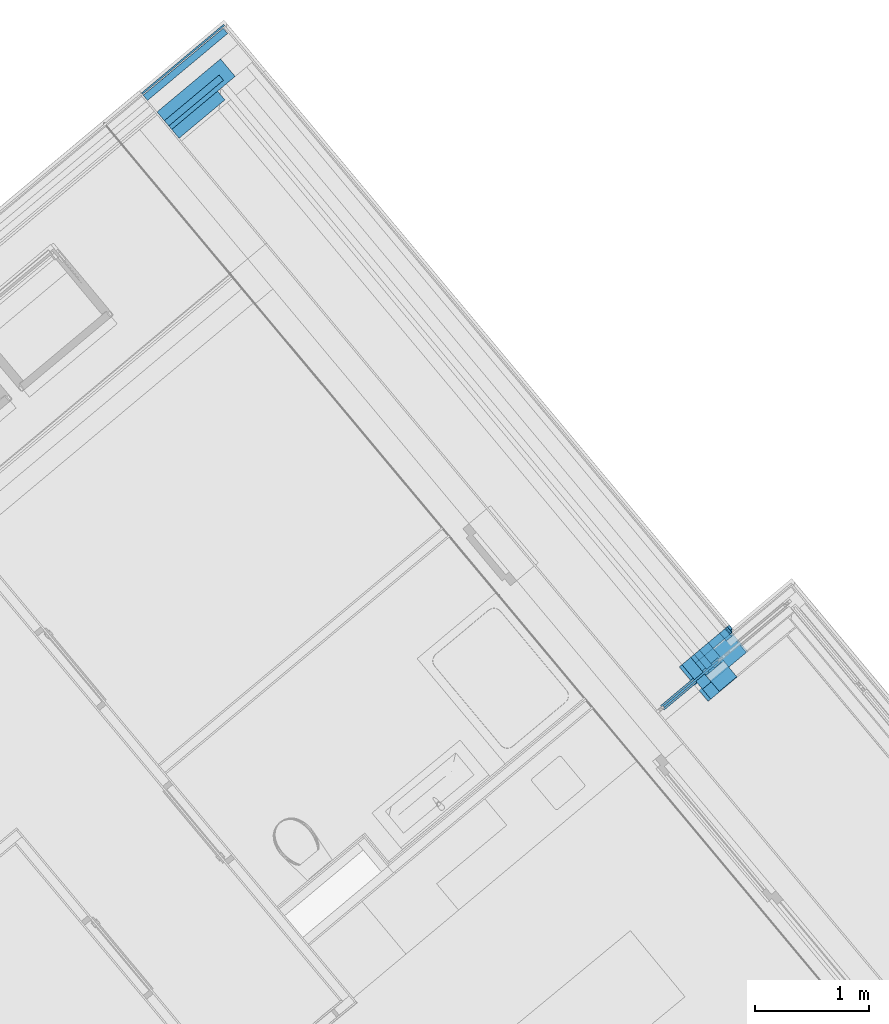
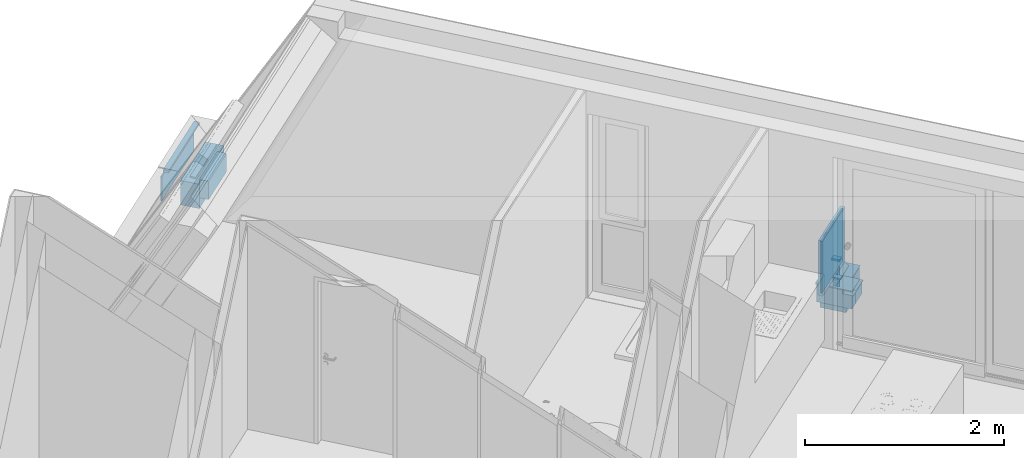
# One storey, part 48 of 58: 15 building element parts, 3 elements without a shape of their own.
"""IFC4 building model written with IfcOpenShell, lengths in metres."""

from ifc_helpers import new_model, entity, si_unit, converted_unit, derived_unit, direction, frame, origin_with_axes, place, context, subcontext, project, spatial, polygons, material, type_object, element, aggregate, save


model = new_model("IFC4")

# Units and contexts
model_context = context("Model", 3, precision=1e-05, world=origin_with_axes(), true_north=direction((0.0, 1.0)))
body_context = subcontext(model_context, "Body", "Model", "MODEL_VIEW")
ifc_project = project(units=[si_unit("LENGTHUNIT", "METRE"), si_unit("AREAUNIT", "SQUARE_METRE"), si_unit("VOLUMEUNIT", "CUBIC_METRE"), converted_unit("PLANEANGLEUNIT", "DEGREE", entity("IfcPlaneAngleMeasure", 0.0174532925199), si_unit("PLANEANGLEUNIT", "RADIAN"), dimensions=[0, 0, 0, 0, 0, 0, 0]), converted_unit("TIMEUNIT", "Year", entity("IfcTimeMeasure", 31556926.0), si_unit("TIMEUNIT", "SECOND"), dimensions=[0, 0, 1, 0, 0, 0, 0]), si_unit("MASSUNIT", "GRAM", prefix="KILO"), si_unit("THERMODYNAMICTEMPERATUREUNIT", "DEGREE_CELSIUS"), si_unit("LUMINOUSINTENSITYUNIT", "LUMEN"), si_unit("ENERGYUNIT", "JOULE", prefix="MEGA"), derived_unit("THERMALCONDUCTANCEUNIT", [(si_unit("POWERUNIT", "WATT"), 1), (si_unit("LENGTHUNIT", "METRE"), -1), (si_unit("THERMODYNAMICTEMPERATUREUNIT", "KELVIN"), -1)]), derived_unit("SPECIFICHEATCAPACITYUNIT", [(si_unit("ENERGYUNIT", "JOULE"), 1), (si_unit("MASSUNIT", "GRAM", prefix="KILO"), -1), (si_unit("THERMODYNAMICTEMPERATUREUNIT", "KELVIN"), -1)]), derived_unit("MASSDENSITYUNIT", [(si_unit("MASSUNIT", "GRAM", prefix="KILO"), 1), (si_unit("VOLUMEUNIT", "CUBIC_METRE"), -1)])], contexts=[model_context])

# Site, building, storey
site_placement = place(None, frame((-0.00153261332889, -0.00661245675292, 0.0), z_axis=(0.0, 0.0, 1.0), x_axis=(1.0, 0.0, 0.0)))
site = spatial("IfcSite", under=ifc_project, at=site_placement, Name="Site", CompositionType="ELEMENT")
building_placement = place(site_placement, origin_with_axes())
building = spatial("IfcBuilding", under=site, at=building_placement, Name="Building", CompositionType="ELEMENT")
storey_placement = place(building_placement, frame((0.0, 0.0, 5.7), z_axis=(0.0, 0.0, 1.0), x_axis=(1.0, 0.0, 0.0)))
storey = spatial("IfcBuildingStorey", under=building, at=storey_placement, Name="DG1", CompositionType="ELEMENT", Elevation=5.7)

# Wall, building element parts
wall_type = type_object("IfcWallType", Name="Bauteil - Attika Terrasse 1.DG 574 x 410", PredefinedType="NOTDEFINED")
wall_1_placement = place(storey_placement, frame((9.8973799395, 25.5957671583, -0.2), z_axis=(0.0, 0.0, 1.0), x_axis=(0.641209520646, -0.767365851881, 0.0)))
wall_1 = element("IfcWall", 1, at=wall_1_placement, inside=storey, type_object=wall_type, Name="Wand-003", PredefinedType="NOTDEFINED")
ifc_material_1 = material(Name="Zementputz")
building_element_part_1_placement = place(wall_1_placement, origin_with_axes())
building_element_part_1 = element("IfcBuildingElementPart", 2, at=building_element_part_1_placement, material=ifc_material_1, Name="Zementputz", PredefinedType="NOTDEFINED", context=body_context, shape_type="Tessellation", body=[
    polygons([(0.0650006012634, 0.199999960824, 0.500000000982), (0.0650006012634, 0.214999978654, 0.500000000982), (0.0, 0.214999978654, 0.499999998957), (0.0, 0.199999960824, 0.499999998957), (0.0650006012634, 0.214999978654, 0.498915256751), (0.0650006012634, 0.199999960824, 0.498915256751), (0.0650006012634, 0.214999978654, 0.498822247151), (0.0650006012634, 0.214999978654, 0.496604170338), (0.0650006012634, 0.214999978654, 0.49100648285), (0.0650006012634, 0.214999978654, 0.488695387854), (0.0650006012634, 0.214999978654, 0.334999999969), (0.0650006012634, 0.214999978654, 0.2), (0.0, 0.214999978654, 0.2), (0.0, 0.199999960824, 0.2), (0.0650006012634, 0.199999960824, 0.2), (0.0650006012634, 0.199999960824, 0.334999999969), (0.0650006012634, 0.199999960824, 0.488695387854), (0.0650006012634, 0.199999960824, 0.49100648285), (0.0650006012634, 0.199999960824, 0.496604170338), (0.0650006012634, 0.199999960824, 0.498822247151)], [[[1, 2, 3, 4]], [[5, 2, 1, 6]], [[2, 5, 7, 8, 9, 10, 11, 12, 13, 3]], [[13, 14, 4, 3]], [[6, 1, 4, 14, 15, 16, 17, 18, 19, 20]], [[5, 6, 20, 7]], [[7, 20, 19, 8]], [[8, 19, 18, 9]], [[9, 18, 17, 10]], [[10, 17, 16, 11]], [[11, 16, 15, 12]], [[12, 15, 14, 13]]], closed=True),
])
ifc_material_2 = material(Name="Vollholz")
building_element_part_2_placement = place(wall_1_placement, origin_with_axes())
building_element_part_2 = element("IfcBuildingElementPart", 3, at=building_element_part_2_placement, material=ifc_material_2, Name="Vollholz", PredefinedType="NOTDEFINED", context=body_context, shape_type="Tessellation", body=[
    polygons([(0.0900156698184, 0.189984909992, 0.586106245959), (0.0900044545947, 0.189996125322, 0.584015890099), (0.0899932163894, 0.190007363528, 0.581921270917), (0.0899819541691, 0.190018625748, 0.57982217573), (0.0899613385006, 0.190039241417, 0.575979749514), (0.0899591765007, 0.190041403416, 0.575576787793), (0.0899500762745, 0.190050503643, 0.573880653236), (0.0899182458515, 0.190082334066, 0.567947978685), (0.0898756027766, 0.190124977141, 0.560000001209), (0.0, 0.190124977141, 0.560000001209), (0.0, 0.189984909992, 0.586106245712), (0.0900044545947, 0.130124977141, 0.584015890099), (0.0899932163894, 0.130124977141, 0.581921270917), (0.0899819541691, 0.130124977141, 0.57982217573), (0.0899613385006, 0.130124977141, 0.575979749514), (0.0899591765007, 0.130124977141, 0.575576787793), (0.0899500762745, 0.130124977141, 0.573880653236), (0.0899182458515, 0.130124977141, 0.567947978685), (0.0898756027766, 0.130124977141, 0.560000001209), (0.0, 0.130124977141, 0.560000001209), (0.0, 0.130124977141, 0.584015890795)], [[[1, 2, 3, 4, 5, 6, 7, 8, 9, 10, 11]], [[12, 2, 1]], [[2, 12, 13, 3]], [[3, 13, 14, 4]], [[4, 14, 15, 5]], [[5, 15, 16, 6]], [[6, 16, 17, 7]], [[7, 17, 18, 8]], [[8, 18, 19, 9]], [[9, 19, 20, 10]], [[21, 11, 10, 20]], [[12, 1, 11, 21]], [[13, 12, 21, 20, 19, 18, 17, 16, 15, 14]]], closed=True),
])
ifc_material_3 = material(Name="EPS 1")
building_element_part_3_placement = place(wall_1_placement, origin_with_axes())
building_element_part_3 = element("IfcBuildingElementPart", 4, at=building_element_part_3_placement, material=ifc_material_3, Name="EPS 1", PredefinedType="NOTDEFINED", context=body_context, shape_type="Tessellation", body=[
    polygons([(0.280000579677, 2.39904096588e-10, 0.499999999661), (0.280000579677, 0.19999996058, 0.499999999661), (0.0, 0.19999996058, 0.499999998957), (0.0, 2.39907649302e-10, 0.499999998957), (0.280000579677, 0.19999996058, 0.498915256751), (0.280000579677, 2.39904096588e-10, 0.498915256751), (0.280000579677, 0.19999996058, 0.498822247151), (0.280000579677, 0.19999996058, 0.496604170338), (0.280000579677, 0.19999996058, 0.49100648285), (0.280000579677, 0.19999996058, 0.488695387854), (0.280000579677, 0.19999996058, 0.334999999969), (0.2800005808, 0.19999996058, 0.199999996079), (0.0, 0.19999996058, 0.2), (0.0, 2.39907649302e-10, 0.2), (0.2800005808, 2.39904096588e-10, 0.199999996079), (0.280000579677, 2.39904096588e-10, 0.334999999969), (0.280000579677, 2.39904096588e-10, 0.488695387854), (0.280000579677, 2.39904096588e-10, 0.49100648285), (0.280000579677, 2.39904096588e-10, 0.496604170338), (0.280000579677, 2.39904096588e-10, 0.498822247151)], [[[1, 2, 3, 4]], [[5, 2, 1, 6]], [[2, 5, 7, 8, 9, 10, 11, 12, 13, 3]], [[14, 4, 3, 13]], [[6, 1, 4, 14, 15, 16, 17, 18, 19, 20]], [[5, 6, 20, 7]], [[7, 20, 19, 8]], [[8, 19, 18, 9]], [[9, 18, 17, 10]], [[10, 17, 16, 11]], [[11, 16, 15, 12]], [[13, 12, 15, 14]]], closed=True),
])
ifc_material_4 = material(Name="Brettschichtholz")
building_element_part_4_placement = place(wall_1_placement, origin_with_axes())
building_element_part_4 = element("IfcBuildingElementPart", 5, at=building_element_part_4_placement, material=ifc_material_4, Name="Brettschichtholz", PredefinedType="NOTDEFINED", context=body_context, shape_type="Tessellation", body=[
    polygons([(0.0650006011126, 0.190124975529, 0.560000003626), (0.0650006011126, 0.214999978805, 0.560000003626), (0.0, 0.214999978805, 0.559999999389), (0.0, 0.190124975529, 0.559999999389), (0.0650006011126, 0.214999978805, 0.519273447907), (0.0650006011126, 0.130124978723, 0.560000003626), (0.0650006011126, -0.100000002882, 0.560000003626), (0.0650006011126, -0.159999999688, 0.560000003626), (0.0650006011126, -0.200000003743, 0.560000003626), (0.0650006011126, -0.200000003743, 0.519273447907), (0.0650006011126, 0.214999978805, 0.519224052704), (0.0650006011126, 0.214999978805, 0.511410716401), (0.280000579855, 0.214999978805, 0.511410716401), (0.280000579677, 0.214999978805, 0.511361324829), (0.0650006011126, 0.214999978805, 0.511361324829), (0.0650006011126, 0.214999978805, 0.509099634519), (0.280000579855, 0.214999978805, 0.509099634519), (0.280000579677, 0.214999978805, 0.50905023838), (0.0650006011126, 0.214999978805, 0.50905023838), (0.0650006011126, 0.214999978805, 0.506731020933), (0.0650006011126, 0.214999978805, 0.499999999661), (0.0, 0.214999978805, 0.499999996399), (0.0, 0.130124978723, 0.559999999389), (0.0, -0.200000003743, 0.500000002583), (0.0, -0.200000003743, 0.559999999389), (0.0, -0.159999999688, 0.559999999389), (0.0, -0.100000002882, 0.559999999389), (0.0650006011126, -0.200000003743, 0.499999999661), (0.0650006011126, -0.200000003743, 0.506731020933), (0.0650006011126, -0.200000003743, 0.50905023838), (0.280000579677, -0.200000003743, 0.50905023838), (0.280000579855, -0.200000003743, 0.509099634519), (0.0650006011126, -0.200000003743, 0.509099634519), (0.0650006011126, -0.200000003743, 0.511361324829), (0.280000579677, -0.200000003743, 0.511361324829), (0.280000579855, -0.200000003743, 0.511410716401), (0.0650006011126, -0.200000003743, 0.511410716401), (0.0650006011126, -0.200000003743, 0.519224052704)], [[[1, 2, 3, 4]], [[5, 2, 1, 6, 7, 8, 9, 10]], [[2, 5, 11, 12, 13, 14, 15, 16, 17, 18, 19, 20, 21, 22, 3]], [[23, 4, 3, 22, 24, 25, 26, 27]], [[6, 1, 4, 23]], [[7, 6, 23, 27]], [[8, 7, 27, 26]], [[9, 8, 26, 25]], [[10, 9, 25, 24, 28, 29, 30, 31, 32, 33, 34, 35, 36, 37, 38]], [[5, 10, 38, 11]], [[11, 38, 37, 12]], [[36, 13, 12, 37]], [[13, 36, 35, 14]], [[14, 35, 34, 15]], [[16, 15, 34, 33]], [[32, 17, 16, 33]], [[17, 32, 31, 18]], [[18, 31, 30, 19]], [[20, 19, 30, 29]], [[20, 29, 28, 21]], [[21, 28, 24, 22]]], closed=True),
])
ifc_material_5 = material(Name="Stahlbeton")
building_element_part_5_placement = place(wall_1_placement, origin_with_axes())
building_element_part_5 = element("IfcBuildingElementPart", 6, at=building_element_part_5_placement, material=ifc_material_5, Name="Stahlbeton", PredefinedType="NOTDEFINED", context=body_context, shape_type="Tessellation", body=[
    polygons([(0.389248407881, -1.82836146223e-09, 0.499999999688), (0.390333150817, -1.82836501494e-09, 0.498915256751), (0.390426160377, -1.82836146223e-09, 0.498822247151), (0.392644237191, -1.82836146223e-09, 0.496604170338), (0.380000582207, -1.82835790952e-09, 0.49660417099), (0.380000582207, -1.82835790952e-09, 0.334999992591), (0.2800005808, -1.82836146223e-09, 0.334999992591), (0.2800005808, -1.82835790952e-09, 0.199999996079), (0.0, -1.82836146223e-09, 0.2), (0.0, -1.82836146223e-09, 0.500000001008), (0.390333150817, -0.199999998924, 0.498915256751), (0.389248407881, -0.199999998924, 0.499999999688), (0.390426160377, -0.199999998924, 0.498822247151), (0.392644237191, -0.199999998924, 0.496604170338), (0.380000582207, -0.199999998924, 0.49660417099), (0.380000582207, -0.199999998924, 0.334999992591), (0.2800005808, -0.199999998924, 0.334999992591), (0.2800005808, -0.199999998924, 0.199999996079), (0.0, -0.199999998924, 0.2), (0.0, -0.199999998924, 0.335000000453), (0.0, -0.199999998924, 0.500000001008)], [[[1, 2, 3, 4, 5, 6, 7, 8, 9, 10]], [[11, 2, 1, 12]], [[2, 11, 13, 3]], [[3, 13, 14, 4]], [[4, 14, 15, 5]], [[16, 6, 5, 15]], [[17, 7, 6, 16]], [[18, 8, 7, 17]], [[9, 8, 18, 19]], [[20, 21, 10, 9, 19]], [[12, 1, 10, 21]], [[11, 12, 21, 20, 17, 16, 15, 14, 13]], [[19, 18, 17, 20]]], closed=True),
])
building_element_part_6_placement = place(wall_1_placement, origin_with_axes())
building_element_part_6 = element("IfcBuildingElementPart", 7, at=building_element_part_6_placement, material=ifc_material_2, Name="Vollholz", PredefinedType="NOTDEFINED", context=body_context, shape_type="Tessellation", body=[
    polygons([(0.209857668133, -0.11153931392, 0.575576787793), (0.209857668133, -0.1, 0.575979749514), (0.0, -0.1, 0.575979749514), (0.0, -0.160110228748, 0.573880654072), (0.209857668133, -0.160110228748, 0.573880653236), (0.209857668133, -0.1, 0.575576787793), (0.209857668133, -0.1, 0.573880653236), (0.209857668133, -0.1, 0.567947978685), (0.209857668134, -0.1, 0.560000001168), (0.0, -0.1, 0.560000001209), (0.0, -0.16, 0.560000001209), (0.209857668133, -0.160063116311, 0.567947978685), (0.209857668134, -0.16, 0.560000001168)], [[[1, 2, 3, 4, 5]], [[6, 2, 1]], [[2, 6, 7, 8, 9, 10, 3]], [[4, 3, 10, 11]], [[12, 5, 4, 11, 13]], [[6, 1, 5, 7]], [[7, 5, 12, 8]], [[8, 12, 13, 9]], [[9, 13, 11, 10]]], closed=True),
])
building_element_part_7_placement = place(wall_1_placement, origin_with_axes())
building_element_part_7 = element("IfcBuildingElementPart", 8, at=building_element_part_7_placement, material=ifc_material_3, Name="EPS 1", PredefinedType="NOTDEFINED", context=body_context, shape_type="Tessellation", body=[
    polygons([(0.280000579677, -0.3, 0.560000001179), (0.280000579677, -0.2, 0.560000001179), (0.0, -0.2, 0.560000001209), (0.0, -0.3, 0.560000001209), (0.280000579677, -0.2, 0.519273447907), (0.280000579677, -0.3, 0.519273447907), (0.280000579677, -0.2, 0.519224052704), (0.280000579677, -0.2, 0.511410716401), (0.280000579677, -0.2, 0.511361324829), (0.280000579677, -0.2, 0.509099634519), (0.280000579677, -0.2, 0.50905023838), (0.280000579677, -0.2, 0.506731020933), (0.280000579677, -0.2, 0.499999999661), (0.380000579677, -0.2, 0.499999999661), (0.389248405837, -0.2, 0.499999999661), (0.391162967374, -0.2, 0.499999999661), (0.392247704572, -0.2, 0.499999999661), (0.393601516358, -0.2, 0.499999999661), (0.393601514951, -0.2, 0.497561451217), (0.392644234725, -0.2, 0.49660417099), (0.380000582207, -0.2, 0.49660417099), (0.380000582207, -0.2, 0.334999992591), (0.0, -0.2, 0.335), (0.0, -0.3, 0.335), (0.380000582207, -0.3, 0.334999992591), (0.380000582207, -0.3, 0.49660417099), (0.392644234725, -0.3, 0.49660417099), (0.393601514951, -0.3, 0.497561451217), (0.393601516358, -0.3, 0.499999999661), (0.392247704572, -0.3, 0.499999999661), (0.391162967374, -0.3, 0.499999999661), (0.389248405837, -0.3, 0.499999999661), (0.380000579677, -0.3, 0.499999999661), (0.280000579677, -0.3, 0.499999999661), (0.280000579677, -0.3, 0.506731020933), (0.280000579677, -0.3, 0.50905023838), (0.280000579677, -0.3, 0.509099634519), (0.280000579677, -0.3, 0.511361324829), (0.280000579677, -0.3, 0.511410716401), (0.280000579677, -0.3, 0.519224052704)], [[[1, 2, 3, 4]], [[5, 2, 1, 6]], [[2, 5, 7, 8, 9, 10, 11, 12, 13, 14, 15, 16, 17, 18, 19, 20, 21, 22, 23, 3]], [[24, 4, 3, 23]], [[6, 1, 4, 24, 25, 26, 27, 28, 29, 30, 31, 32, 33, 34, 35, 36, 37, 38, 39, 40]], [[5, 6, 40, 7]], [[7, 40, 39, 8]], [[8, 39, 38, 9]], [[9, 38, 37, 10]], [[10, 37, 36, 11]], [[11, 36, 35, 12]], [[12, 35, 34, 13]], [[33, 14, 13, 34]], [[14, 33, 32, 15]], [[15, 32, 31, 16]], [[16, 31, 30, 17]], [[17, 30, 29, 18]], [[18, 29, 28, 19]], [[27, 20, 19, 28]], [[26, 21, 20, 27]], [[25, 22, 21, 26]], [[23, 22, 25, 24]]], closed=True),
])
ifc_material_6 = material(Name="Holzwerkstoff")
building_element_part_8_placement = place(wall_1_placement, origin_with_axes())
building_element_part_8 = element("IfcBuildingElementPart", 9, at=building_element_part_8_placement, material=ifc_material_6, Name="Holzwerkstoff", PredefinedType="NOTDEFINED", context=body_context, shape_type="Tessellation", body=[
    polygons([(0.380000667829, -0.330280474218, 0.575979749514), (0.391539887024, -0.330266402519, 0.575576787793), (0.391539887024, -0.111539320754, 0.575576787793), (0.380000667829, -0.10000001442, 0.575979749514), (0.269946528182, -0.330280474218, 0.575979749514), (0.209857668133, -0.330280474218, 0.575979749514), (0.209857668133, -0.330414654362, 0.579822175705), (0.209857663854, -0.330487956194, 0.581921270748), (0.149875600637, -0.3305611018, 0.584015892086), (0.0900156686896, -0.330634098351, 0.586106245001), (0.0400005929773, -0.330695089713, 0.587852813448), (0.0400035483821, -0.330698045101, 0.587937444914), (0.0, -0.330698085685, 0.587938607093), (0.0, -0.329999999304, 0.567947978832), (0.392247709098, -0.329999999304, 0.567947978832), (0.392247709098, -0.330207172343, 0.573880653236), (0.392247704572, -0.330266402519, 0.575576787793), (0.392247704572, -0.111539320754, 0.575576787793), (0.0, -0.160110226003, 0.573880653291), (0.0, -0.100000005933, 0.575979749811), (0.209857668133, -0.10000001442, 0.575979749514), (0.269946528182, -0.10000001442, 0.575979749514), (0.392247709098, -0.160110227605, 0.573880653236), (0.209857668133, 0.0100327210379, 0.579822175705), (0.209857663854, 0.0701429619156, 0.581921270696), (0.149875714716, 0.130124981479, 0.584015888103), (0.0900158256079, 0.189984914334, 0.586106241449), (0.0400007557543, 0.239999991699, 0.587852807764), (0.0400035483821, 0.239997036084, 0.587937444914), (0.0402797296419, -0.112247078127, 0.595846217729), (0.0407240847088, 0.239276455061, 0.608570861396), (0.0, 0.239276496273, 0.608570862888), (0.0, 0.239999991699, 0.587852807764), (0.0, 0.189984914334, 0.586106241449), (0.0, 0.130124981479, 0.584015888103), (0.0402797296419, 0.239720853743, 0.595846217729)], [[[1, 2, 3, 4]], [[5, 6, 7, 8, 9, 10, 11, 12, 13, 14, 15, 16, 17, 2, 1]], [[2, 17, 18, 3]], [[19, 20, 21, 22, 4, 3, 18, 23]], [[5, 1, 4, 22]], [[6, 5, 22, 21]], [[7, 6, 21, 24]], [[8, 7, 24, 25]], [[9, 8, 25, 26]], [[10, 9, 26, 27]], [[11, 10, 27, 28]], [[12, 11, 28, 29]], [[13, 12, 30, 31, 32]], [[14, 13, 32, 33, 34, 35, 20, 19]], [[14, 19, 23, 15]], [[15, 23, 16]], [[17, 16, 23, 18]], [[21, 20, 35, 26, 25, 24]], [[35, 34, 27, 26]], [[27, 34, 33, 28]], [[29, 28, 33, 32, 31, 36]], [[30, 12, 29, 36]], [[30, 36, 31]]], closed=True),
])
aggregate(wall_1, [building_element_part_1, building_element_part_2, building_element_part_3, building_element_part_4, building_element_part_5, building_element_part_6, building_element_part_7, building_element_part_8])

wall_2_placement = place(storey_placement, frame((5.07730037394, 30.2362941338, -0.2), z_axis=(0.0, 0.0, 1.0), x_axis=(0.767365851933, 0.641209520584, 0.0)))
wall_2 = element("IfcWall", 10, at=wall_2_placement, inside=storey, type_object=wall_type, Name="Wand-002", PredefinedType="NOTDEFINED")
building_element_part_9_placement = place(wall_2_placement, origin_with_axes())
building_element_part_9 = element("IfcBuildingElementPart", 11, at=building_element_part_9_placement, material=ifc_material_1, Name="Zementputz", PredefinedType="NOTDEFINED", context=body_context, shape_type="Tessellation", body=[
    polygons([(0.938189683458, 0.199999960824, 0.2), (0.938189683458, 0.199999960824, 0.499999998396), (0.0, 0.199999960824, 0.499999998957), (0.0, 0.199999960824, 0.2), (0.938189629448, 0.214999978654, 0.2), (0.938189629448, 0.214999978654, 0.499999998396), (0.0, 0.214999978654, 0.499999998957), (0.0, 0.214999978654, 0.2)], [[[1, 2, 3, 4]], [[2, 1, 5, 6]], [[2, 6, 7, 3]], [[4, 3, 7, 8]], [[5, 1, 4, 8]], [[6, 5, 8, 7]]], closed=True),
])
building_element_part_10_placement = place(wall_2_placement, origin_with_axes())
building_element_part_10 = element("IfcBuildingElementPart", 12, at=building_element_part_10_placement, material=ifc_material_2, Name="Vollholz", PredefinedType="NOTDEFINED", context=body_context, shape_type="Tessellation", body=[
    polygons([(0.913185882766, 0.189996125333, 0.584015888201), (0.913186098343, 0.130124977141, 0.584015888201), (0.913229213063, 0.130124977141, 0.575979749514), (0.91322899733, 0.190039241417, 0.575979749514), (0.913174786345, 0.189984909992, 0.58610624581), (0.0, 0.130124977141, 0.584015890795), (0.0, 0.130124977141, 0.560000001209), (0.913314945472, 0.130124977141, 0.559999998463), (0.913272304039, 0.130124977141, 0.567947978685), (0.913240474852, 0.130124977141, 0.573880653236), (0.913240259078, 0.190050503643, 0.573880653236), (0.913272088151, 0.190082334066, 0.567947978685), (0.913314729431, 0.190124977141, 0.559999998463), (0.0, 0.190124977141, 0.560000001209), (0.0, 0.189984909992, 0.586106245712)], [[[1, 2, 3, 4]], [[5, 2, 1]], [[3, 2, 6, 7, 8, 9, 10]], [[4, 3, 10, 11]], [[5, 1, 4, 11, 12, 13, 14, 15]], [[2, 5, 15, 6]], [[6, 15, 14, 7]], [[13, 8, 7, 14]], [[12, 9, 8, 13]], [[11, 10, 9, 12]]], closed=True),
])
building_element_part_11_placement = place(wall_2_placement, origin_with_axes())
building_element_part_11 = element("IfcBuildingElementPart", 13, at=building_element_part_11_placement, material=ifc_material_5, Name="Stahlbeton", PredefinedType="NOTDEFINED", context=body_context, shape_type="Tessellation", body=[
    polygons([(0.723191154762, -0.199999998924, 0.498822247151), (0.723191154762, -0.199999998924, 0.499999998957), (0.0, -0.199999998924, 0.500000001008), (0.0, -0.199999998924, 0.335000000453), (0.723191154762, -0.199999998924, 0.335), (0.723191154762, -0.199999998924, 0.488695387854), (0.723191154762, -0.199999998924, 0.49100648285), (0.723190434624, -1.82835080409e-09, 0.499999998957), (0.723190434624, -1.82835080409e-09, 0.498822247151), (0.0, -1.82835080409e-09, 0.500000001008), (0.0, -1.82835080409e-09, 0.2), (0.0, -0.199999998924, 0.2), (0.723191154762, -0.199999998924, 0.2), (0.723190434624, -1.82835080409e-09, 0.488695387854), (0.723190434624, -1.82835080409e-09, 0.335), (0.723190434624, -1.82835080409e-09, 0.49100648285), (0.723190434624, -1.82835080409e-09, 0.2)], [[[1, 2, 3, 4, 5, 6, 7]], [[8, 2, 1, 9]], [[2, 8, 10, 3]], [[4, 3, 10, 11, 12]], [[13, 5, 4, 12]], [[14, 6, 5, 15]], [[16, 7, 6, 14]], [[9, 1, 7, 16]], [[8, 9, 16, 14, 15, 17, 11, 10]], [[17, 13, 12, 11]], [[15, 5, 13, 17]]], closed=True),
])
building_element_part_12_placement = place(wall_2_placement, origin_with_axes())
building_element_part_12 = element("IfcBuildingElementPart", 14, at=building_element_part_12_placement, material=ifc_material_2, Name="Vollholz", PredefinedType="NOTDEFINED", context=body_context, shape_type="Tessellation", body=[
    polygons([(0.62319079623, -0.1, 0.573880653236), (0.623191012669, -0.160110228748, 0.573880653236), (0.623191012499, -0.160063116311, 0.567947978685), (0.62319079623, -0.1, 0.567947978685), (0.62319079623, -0.1, 0.575979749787), (0.0, -0.160110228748, 0.573880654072), (0.0, -0.16, 0.560000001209), (0.623191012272, -0.16, 0.559999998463), (0.62319079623, -0.1, 0.559999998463), (0.0, -0.1, 0.560000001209), (0.0, -0.1, 0.575979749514)], [[[1, 2, 3, 4]], [[5, 2, 1]], [[3, 2, 6, 7, 8]], [[4, 3, 8, 9]], [[5, 1, 4, 9, 10, 11]], [[2, 5, 11, 6]], [[6, 11, 10, 7]], [[9, 8, 7, 10]]], closed=True),
])
building_element_part_13_placement = place(wall_2_placement, origin_with_axes())
building_element_part_13 = element("IfcBuildingElementPart", 15, at=building_element_part_13_placement, material=ifc_material_3, Name="EPS 1", PredefinedType="NOTDEFINED", context=body_context, shape_type="Tessellation", body=[
    polygons([(0.523191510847, -0.3, 0.519224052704), (0.523191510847, -0.3, 0.559999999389), (0.0, -0.3, 0.560000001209), (0.0, -0.3, 0.335), (0.523191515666, -0.3, 0.335), (0.523191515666, -0.3, 0.488695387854), (0.523191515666, -0.3, 0.49100648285), (0.523191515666, -0.3, 0.498822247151), (0.523191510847, -0.3, 0.500000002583), (0.523191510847, -0.3, 0.50905023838), (0.523191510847, -0.3, 0.511361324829), (0.523191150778, -0.2, 0.559999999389), (0.523191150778, -0.2, 0.519224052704), (0.0, -0.2, 0.560000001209), (0.0, -0.2, 0.335), (0.523191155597, -0.2, 0.335), (0.523191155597, -0.2, 0.488695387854), (0.523191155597, -0.2, 0.49100648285), (0.523191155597, -0.2, 0.498822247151), (0.523191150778, -0.2, 0.500000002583), (0.523191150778, -0.2, 0.50905023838), (0.523191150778, -0.2, 0.511361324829)], [[[1, 2, 3, 4, 5, 6, 7, 8, 9, 10, 11]], [[12, 2, 1, 13]], [[2, 12, 14, 3]], [[4, 3, 14, 15]], [[16, 5, 4, 15]], [[17, 6, 5, 16]], [[18, 7, 6, 17]], [[19, 8, 7, 18]], [[20, 9, 8, 19]], [[21, 10, 9, 20]], [[22, 11, 10, 21]], [[13, 1, 11, 22]], [[12, 13, 22, 21, 20, 19, 18, 17, 16, 15, 14]]], closed=True),
])
aggregate(wall_2, [building_element_part_9, building_element_part_10, building_element_part_11, building_element_part_12, building_element_part_13])

# Railing, building element parts
railing_type = type_object("IfcRailingType", Name="Geländerart", PredefinedType="NOTDEFINED")
railing_placement = place(storey_placement, frame((13.1317464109, 20.5971564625, 0.38), z_axis=(0.0, 0.0, 1.0), x_axis=(1.0, 0.0, 0.0)))
railing = element("IfcRailing", 16, at=railing_placement, inside=storey, type_object=railing_type, Name="Geländer - 001", PredefinedType="NOTDEFINED")
ifc_material_7 = material(Name="Profilit")
building_element_part_14_placement = place(railing_placement, origin_with_axes())
building_element_part_14 = element("IfcBuildingElementPart", 17, at=building_element_part_14_placement, material=ifc_material_7, Name="Profilit", PredefinedType="NOTDEFINED", context=body_context, shape_type="Tessellation", body=[
    polygons([(-3.61762754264, 4.4307574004, 0.135), (-3.1418029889, 4.82835553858, 0.135), (-3.1418029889, 4.82835553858, 0.775), (-3.61762754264, 4.4307574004, 0.775), (-3.15462717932, 4.84370285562, 0.135), (-3.63045173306, 4.44610471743, 0.135), (-3.15462717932, 4.84370285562, 0.775), (-3.63045173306, 4.44610471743, 0.775)], [[[1, 2, 3, 4]], [[5, 2, 1, 6]], [[7, 3, 2, 5]], [[4, 3, 7, 8]], [[1, 4, 8, 6]], [[7, 5, 6, 8]]], closed=True),
])
ifc_material_8 = material(Name="Aluminium")
building_element_part_15_placement = place(railing_placement, origin_with_axes())
building_element_part_15 = element("IfcBuildingElementPart", 18, at=building_element_part_15_placement, material=ifc_material_8, Name="Aluminium", PredefinedType="NOTDEFINED", context=body_context, shape_type="Tessellation", body=[
    polygons([(-3.21183815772, 4.77960797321, 0.12), (-3.26555376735, 4.73472330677, 0.12), (-3.26555376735, 4.73472330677, 0.095), (-3.21183815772, 4.77960797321, 0.095), (-3.21504420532, 4.78344480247, 0.12), (-3.26875981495, 4.73856013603, 0.12), (-3.26875981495, 4.73856013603, 0.095), (-3.21504420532, 4.78344480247, 0.095)], [[[1, 2, 3, 4]], [[5, 6, 2, 1]], [[2, 6, 7, 3]], [[4, 3, 7, 8]], [[1, 4, 8, 5]], [[8, 7, 6, 5]]], closed=True),
    polygons([(-3.55721051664, 4.49101545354, 0.79), (-3.50349490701, 4.53590011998, 0.79), (-3.50349490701, 4.53590011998, 0.795), (-3.55721051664, 4.49101545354, 0.795), (-3.56041656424, 4.4948522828, 0.79), (-3.50670095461, 4.53973694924, 0.79), (-3.50670095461, 4.53973694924, 0.795), (-3.56041656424, 4.4948522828, 0.795)], [[[1, 2, 3, 4]], [[5, 6, 2, 1]], [[2, 6, 7, 3]], [[4, 3, 7, 8]], [[1, 4, 8, 5]], [[8, 7, 6, 5]]], closed=True),
    polygons([(-3.15273483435, 4.86483148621, 0.12), (-3.12067435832, 4.82646319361, 0.12), (-3.61951988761, 4.40962876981, 0.12), (-3.65158036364, 4.4479970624, 0.12), (-3.16808215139, 4.85200729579, 0.14), (-3.15846400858, 4.84049680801, 0.14), (-3.15462717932, 4.84370285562, 0.135), (-3.1418029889, 4.82835553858, 0.135), (-3.14563981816, 4.82514949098, 0.14), (-3.13602167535, 4.8136390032, 0.14), (-3.60417257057, 4.42245296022, 0.14), (-3.60417257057, 4.42245296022, 0.77), (-3.13602167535, 4.8136390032, 0.77), (-3.13602167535, 4.8136390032, 0.14), (-3.12067435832, 4.82646319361, 0.12), (-3.12067435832, 4.82646319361, 0.79), (-3.61951988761, 4.40962876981, 0.79), (-3.65158036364, 4.4479970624, 0.79), (-3.15273483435, 4.86483148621, 0.79), (-3.15273483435, 4.86483148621, 0.12), (-3.16808215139, 4.85200729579, 0.14), (-3.16808215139, 4.85200729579, 0.77), (-3.63623304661, 4.46082125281, 0.77), (-3.63623304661, 4.46082125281, 0.14), (-3.6266149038, 4.44931076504, 0.14), (-3.6266149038, 4.44931076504, 0.77), (-3.15846400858, 4.84049680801, 0.77), (-3.15846400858, 4.84049680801, 0.14), (-3.15462717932, 4.84370285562, 0.135), (-3.15462717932, 4.84370285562, 0.775), (-3.63045173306, 4.44610471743, 0.775), (-3.63045173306, 4.44610471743, 0.135), (-3.61762754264, 4.4307574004, 0.135), (-3.61762754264, 4.4307574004, 0.775), (-3.1418029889, 4.82835553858, 0.775), (-3.1418029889, 4.82835553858, 0.135), (-3.14563981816, 4.82514949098, 0.14), (-3.14563981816, 4.82514949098, 0.77), (-3.61379071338, 4.433963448, 0.77), (-3.61379071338, 4.433963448, 0.14)], [[[1, 2, 3, 4]], [[1, 5, 6, 7, 8, 9, 10, 2]], [[2, 10, 11, 12, 13, 14, 15, 16, 17, 3]], [[4, 3, 17, 18]], [[5, 1, 4, 18, 19, 20, 21, 22, 23, 24]], [[6, 5, 24, 25]], [[7, 6, 25, 26, 27, 28, 29, 30, 31, 32]], [[8, 7, 32, 33]], [[9, 8, 33, 34, 35, 36, 37, 38, 39, 40]], [[10, 9, 40, 11]], [[11, 40, 39, 12]], [[12, 39, 38, 13]], [[13, 38, 37, 14]], [[20, 15, 14, 37, 36, 29, 28, 21]], [[19, 16, 15, 20]], [[18, 17, 16, 19]], [[27, 22, 21, 28]], [[26, 23, 22, 27]], [[25, 24, 23, 26]], [[35, 30, 29, 36]], [[34, 31, 30, 35]], [[33, 32, 31, 34]]], closed=True),
])
aggregate(railing, [building_element_part_14, building_element_part_15])

save(model, "model.ifc")
